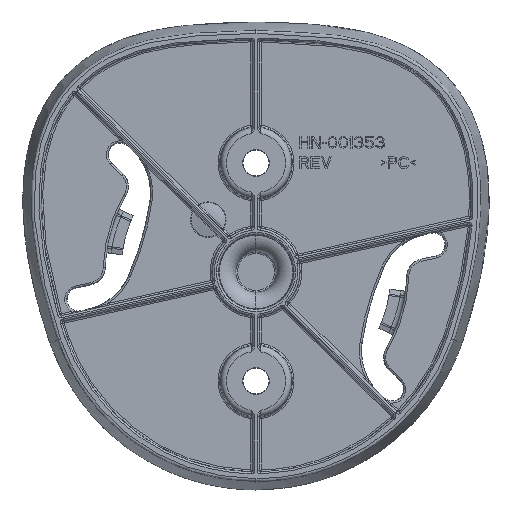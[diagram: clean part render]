
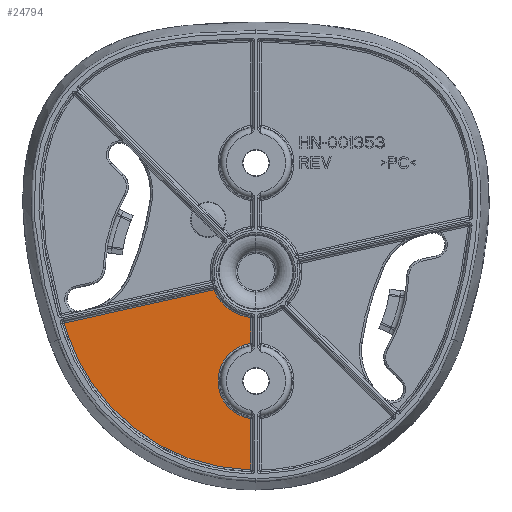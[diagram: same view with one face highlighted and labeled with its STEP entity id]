
A CAD part, front view. The second image highlights one B-rep face of the part: STEP entity #24794.
In plain terms, the highlighted planar face has unit normal (0, -1, 0).
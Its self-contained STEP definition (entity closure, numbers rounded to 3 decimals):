
#2994=CARTESIAN_POINT('',(0.,-106.,10.25));
#2995=DIRECTION('',(0.,-1.,0.));
#2996=DIRECTION('',(-0.136,0.,0.991));
#2997=AXIS2_PLACEMENT_3D('',#2994,#2995,#2996);
#3002=DIRECTION('',(0.,0.,-1.));
#3003=VECTOR('',#3002,8.831);
#3004=CARTESIAN_POINT('',(-0.892,-106.,3.772));
#3005=LINE('',#3004,#3003);
#3009=CARTESIAN_POINT('',(-0.892,-106.,-5.059));
#3010=CARTESIAN_POINT('',(-1.691,-106.,-5.038));
#3011=CARTESIAN_POINT('',(-3.326,-106.,-4.937));
#3012=CARTESIAN_POINT('',(-5.765,-106.,-4.615));
#3013=CARTESIAN_POINT('',(-8.555,-106.,-4.028));
#3014=CARTESIAN_POINT('',(-11.585,-106.,-3.104));
#3015=CARTESIAN_POINT('',(-14.869,-106.,-1.738));
#3016=CARTESIAN_POINT('',(-18.305,-106.,0.155));
#3017=CARTESIAN_POINT('',(-21.745,-106.,2.637));
#3018=CARTESIAN_POINT('',(-24.914,-106.,5.614));
#3019=CARTESIAN_POINT('',(-27.475,-106.,8.725));
#3020=CARTESIAN_POINT('',(-29.353,-106.,11.58));
#3021=CARTESIAN_POINT('',(-30.985,-106.,14.675));
#3022=CARTESIAN_POINT('',(-31.856,-106.,16.848));
#3023=CARTESIAN_POINT('',(-32.239,-106.,17.967));
#3028=CARTESIAN_POINT('',(-32.239,-106.,17.967));
#3029=CARTESIAN_POINT('',(-32.325,-106.,18.22));
#3030=CARTESIAN_POINT('',(-32.495,-106.,18.723));
#3031=CARTESIAN_POINT('',(-32.743,-106.,19.476));
#3032=CARTESIAN_POINT('',(-32.904,-106.,19.977));
#3033=CARTESIAN_POINT('',(-32.983,-106.,20.227));
#3038=DIRECTION('',(0.976,0.,0.216));
#3039=VECTOR('',#3038,26.338);
#3040=CARTESIAN_POINT('',(-32.983,-106.,20.227));
#3041=LINE('',#3040,#3039);
#3045=CARTESIAN_POINT('',(0.,-106.,29.));
#3046=DIRECTION('',(0.,-1.,0.));
#3047=DIRECTION('',(-0.921,0.,-0.389));
#3048=AXIS2_PLACEMENT_3D('',#3045,#3046,#3047);
#3053=DIRECTION('',(0.,0.,-1.));
#3054=VECTOR('',#3053,4.43);
#3055=CARTESIAN_POINT('',(-0.892,-106.,21.158));
#3056=LINE('',#3055,#3054);
#19766=CARTESIAN_POINT('',(-0.892,-106.,16.728));
#19767=CARTESIAN_POINT('',(-0.892,-106.,3.772));
#19768=VERTEX_POINT('',#19766);
#19769=VERTEX_POINT('',#19767);
#19770=CARTESIAN_POINT('',(-0.892,-106.,-5.059));
#19771=VERTEX_POINT('',#19770);
#19772=VERTEX_POINT('',#3023);
#19773=VERTEX_POINT('',#3033);
#19777=CARTESIAN_POINT('',(-7.269,-106.,25.927));
#19778=VERTEX_POINT('',#19777);
#19779=CARTESIAN_POINT('',(-0.892,-106.,21.158));
#19780=VERTEX_POINT('',#19779);
#24773=CARTESIAN_POINT('',(0.,-106.,80.));
#24774=DIRECTION('',(0.,-1.,0.));
#24775=DIRECTION('',(0.,0.,-1.));
#24776=AXIS2_PLACEMENT_3D('',#24773,#24774,#24775);
#24777=PLANE('',#24776);
#24779=ORIENTED_EDGE('',*,*,#24778,.T.);
#24781=ORIENTED_EDGE('',*,*,#24780,.T.);
#24783=ORIENTED_EDGE('',*,*,#24782,.T.);
#24785=ORIENTED_EDGE('',*,*,#24784,.T.);
#24787=ORIENTED_EDGE('',*,*,#24786,.T.);
#24789=ORIENTED_EDGE('',*,*,#24788,.T.);
#24791=ORIENTED_EDGE('',*,*,#24790,.T.);
#24792=EDGE_LOOP('',(#24779,#24781,#24783,#24785,#24787,#24789,#24791));
#24793=FACE_OUTER_BOUND('',#24792,.F.);
#2998=CIRCLE('',#2997,6.54);
#3024=B_SPLINE_CURVE_WITH_KNOTS('',3,(#3009,#3010,#3011,#3012,#3013,#3014,#3015,
#3016,#3017,#3018,#3019,#3020,#3021,#3022,#3023),.UNSPECIFIED.,.F.,.F.,(4,1,1,1,
1,1,1,1,1,1,1,1,4),(0.,0.083,0.167,0.25,
0.333,0.417,0.5,0.583,0.667,
0.75,0.833,0.917,1.),.UNSPECIFIED.);
#3034=B_SPLINE_CURVE_WITH_KNOTS('',3,(#3028,#3029,#3030,#3031,#3032,#3033),
.UNSPECIFIED.,.F.,.F.,(4,1,1,4),(0.,0.333,0.667,1.),
.UNSPECIFIED.);
#3049=CIRCLE('',#3048,7.892);
#24778=EDGE_CURVE('',#19768,#19769,#2998,.T.);
#24780=EDGE_CURVE('',#19769,#19771,#3005,.T.);
#24782=EDGE_CURVE('',#19771,#19772,#3024,.T.);
#24784=EDGE_CURVE('',#19772,#19773,#3034,.T.);
#24786=EDGE_CURVE('',#19773,#19778,#3041,.T.);
#24788=EDGE_CURVE('',#19778,#19780,#3049,.T.);
#24790=EDGE_CURVE('',#19780,#19768,#3056,.T.);
#24794=ADVANCED_FACE('',(#24793),#24777,.T.);
